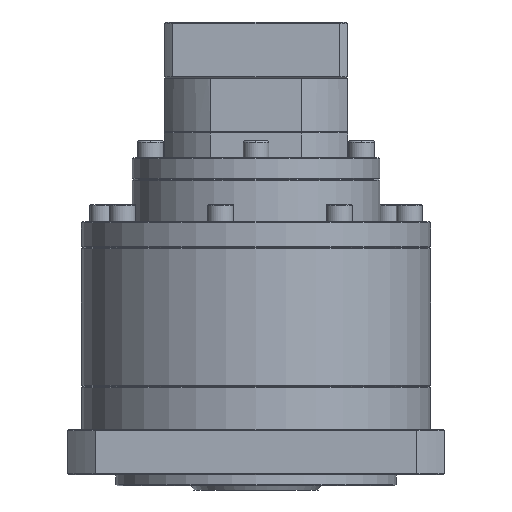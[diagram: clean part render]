
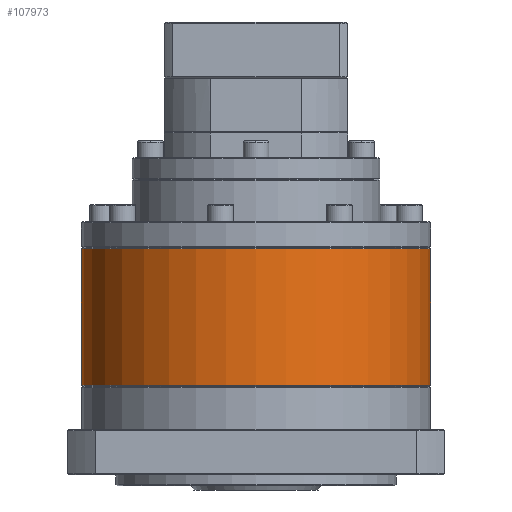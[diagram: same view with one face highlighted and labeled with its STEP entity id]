
A CAD part, front view. The second image highlights one B-rep face of the part: STEP entity #107973.
In plain terms, the highlighted cylindrical face has radius 81 mm (diameter 162 mm), a partial arc.
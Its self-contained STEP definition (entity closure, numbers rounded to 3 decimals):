
#1173 = CARTESIAN_POINT ( 'NONE',  ( -77.244, -56.34, 315.1 ) ) ;
#9541 = EDGE_CURVE ( 'NONE', #126560, #20705, #20946, .T. ) ;
#9904 = CARTESIAN_POINT ( 'NONE',  ( -158.244, 24.66, 315.6 ) ) ;
#19725 = DIRECTION ( 'NONE',  ( -1., 0., 0. ) ) ;
#20241 = DIRECTION ( 'NONE',  ( 0., 0., -1. ) ) ;
#20705 = VERTEX_POINT ( 'NONE', #101826 ) ;
#20946 = CIRCLE ( 'NONE', #87767, 81. ) ;
#21228 = VERTEX_POINT ( 'NONE', #112867 ) ;
#21652 = ORIENTED_EDGE ( 'NONE', *, *, #31211, .T. ) ;
#23506 = VECTOR ( 'NONE', #20241, 1000. ) ;
#31211 = EDGE_CURVE ( 'NONE', #21228, #65167, #41577, .T. ) ;
#31468 = ORIENTED_EDGE ( 'NONE', *, *, #55642, .T. ) ;
#36019 = DIRECTION ( 'NONE',  ( 0., 0., -1. ) ) ;
#37016 = CARTESIAN_POINT ( 'NONE',  ( -77.244, 24.66, 315.1 ) ) ;
#41577 = CIRCLE ( 'NONE', #76138, 81. ) ;
#45319 = CARTESIAN_POINT ( 'NONE',  ( -77.244, 24.66, 315.1 ) ) ;
#46168 = ORIENTED_EDGE ( 'NONE', *, *, #98496, .F. ) ;
#46472 = LINE ( 'NONE', #78811, #98033 ) ;
#51218 = DIRECTION ( 'NONE',  ( 0., 0., -1. ) ) ;
#52553 = CYLINDRICAL_SURFACE ( 'NONE', #68756, 81. ) ;
#55125 = CIRCLE ( 'NONE', #76975, 81. ) ;
#55642 = EDGE_CURVE ( 'NONE', #65167, #107679, #55125, .T. ) ;
#59328 = ORIENTED_EDGE ( 'NONE', *, *, #9541, .T. ) ;
#61629 = CARTESIAN_POINT ( 'NONE',  ( -158.244, 24.66, 315.1 ) ) ;
#65167 = VERTEX_POINT ( 'NONE', #1173 ) ;
#66857 = DIRECTION ( 'NONE',  ( 0., 0., -1. ) ) ;
#68756 = AXIS2_PLACEMENT_3D ( 'NONE', #92675, #51218, #19725 ) ;
#73696 = CARTESIAN_POINT ( 'NONE',  ( -158.244, 24.66, 251.6 ) ) ;
#76138 = AXIS2_PLACEMENT_3D ( 'NONE', #37016, #118534, #87489 ) ;
#76975 = AXIS2_PLACEMENT_3D ( 'NONE', #45319, #66857, #128985 ) ;
#77826 = EDGE_LOOP ( 'NONE', ( #46168, #21652, #31468, #132128, #59328 ) ) ;
#78811 = CARTESIAN_POINT ( 'NONE',  ( 3.756, 24.66, 315.6 ) ) ;
#87489 = DIRECTION ( 'NONE',  ( -1., 0., 0. ) ) ;
#87767 = AXIS2_PLACEMENT_3D ( 'NONE', #127033, #108989, #98648 ) ;
#89671 = FACE_OUTER_BOUND ( 'NONE', #77826, .T. ) ;
#92675 = CARTESIAN_POINT ( 'NONE',  ( -77.244, 24.66, 315.6 ) ) ;
#98033 = VECTOR ( 'NONE', #36019, 1000. ) ;
#98496 = EDGE_CURVE ( 'NONE', #21228, #20705, #46472, .T. ) ;
#98648 = DIRECTION ( 'NONE',  ( -1., 0., 0. ) ) ;
#101826 = CARTESIAN_POINT ( 'NONE',  ( 3.756, 24.66, 251.6 ) ) ;
#107679 = VERTEX_POINT ( 'NONE', #61629 ) ;
#107973 = ADVANCED_FACE ( 'NONE', ( #89671 ), #52553, .T. ) ;
#108989 = DIRECTION ( 'NONE',  ( 0., 0., 1. ) ) ;
#112867 = CARTESIAN_POINT ( 'NONE',  ( 3.756, 24.66, 315.1 ) ) ;
#113452 = EDGE_CURVE ( 'NONE', #107679, #126560, #133070, .T. ) ;
#118534 = DIRECTION ( 'NONE',  ( 0., 0., -1. ) ) ;
#126560 = VERTEX_POINT ( 'NONE', #73696 ) ;
#127033 = CARTESIAN_POINT ( 'NONE',  ( -77.244, 24.66, 251.6 ) ) ;
#128985 = DIRECTION ( 'NONE',  ( -1., 0., 0. ) ) ;
#132128 = ORIENTED_EDGE ( 'NONE', *, *, #113452, .T. ) ;
#133070 = LINE ( 'NONE', #9904, #23506 ) ;
